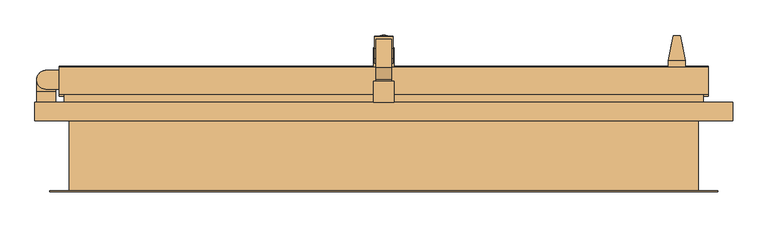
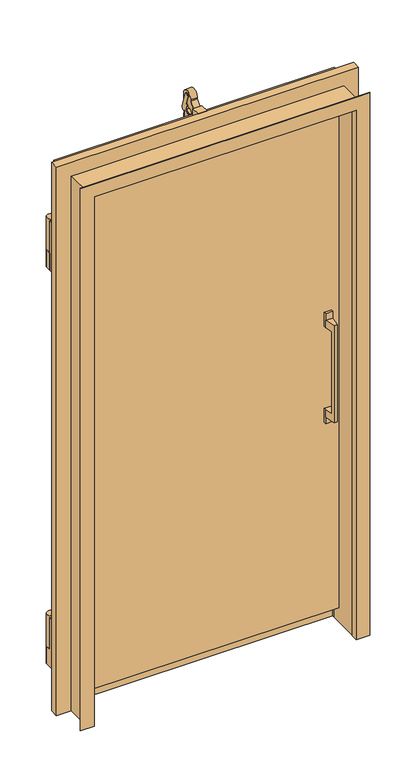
"""IFC4 building model written with IfcOpenShell, lengths in millimetres: door geometry, 冷凍_シリウス片開き扉3方_クローザー付 : W870xH1855xt100."""

from ifc_helpers import new_model, si_unit, point, frame, frame_2d, origin, origin_with_axes, origin_2d, place, context, project, spatial, polyline, circle_curve, trimmed, segment, composite_curve, outline, extrude, faceted_brep, source, transform, mapped, element, save
from ifc_brep_helpers import plane_surface, cylinder_surface, advanced_brep


def door_3bc860e5(model_context):
    return source(origin(), model_context, "Body", "SolidModel", [
        extrude(outline(composite_curve([segment(polyline([(153.7575082, 1944.1707894), (171.1391829, 1892.2691434)]), True, "CONTINUOUS"), segment(trimmed(circle_curve(frame_2d((161.6568058, 1889.0935294)), 10.0), [point((171.1391829, 1892.2691434))], [point((166.038682, 1880.104694))], False, "CARTESIAN"), True, "CONTINUOUS"), segment(polyline([(166.038682, 1880.104694), (154.99992, 1874.72352), (154.99992, 1885.0), (132.4778735, 1885.0), (147.44367, 1892.17143), (142.24514, 1907.69423), (149.32271, 1913.32711), (140.4852998, 1939.7156242)]), True, "CONTINUOUS"), segment(trimmed(circle_curve(frame_2d((147.1198418, 1941.9478606)), 7.0000019), [point((140.4852998, 1939.7156242))], [point((153.7575082, 1944.1707894))], False, "CARTESIAN"), True, "CONTINUOUS")], self_intersect=False)), frame((-13.25, 0.0, 0.0), z_axis=(1.0, 0.0, 0.0), x_axis=(0.0, 1.0, 0.0)), (0.0, 0.0, 1.0), 26.55),
        extrude(outline(composite_curve([segment(polyline([(109.00191, 1914.03364), (127.0, 1933.2594997), (127.0, 1937.9563633)]), True, "CONTINUOUS"), segment(trimmed(circle_curve(frame_2d((147.0008804, 1937.9563633)), 20.0008804), [point((127.0, 1937.9563633))], [point((167.0017607, 1937.9563633))], False, "CARTESIAN"), True, "CONTINUOUS"), segment(polyline([(167.0017607, 1937.9563633), (167.0017607, 1904.84567), (129.73254, 1904.84567), (108.3436039, 1887.49977), (107.00188, 1887.49977), (107.00188, 1914.03364), (109.00191, 1914.03364)]), True, "CONTINUOUS")], self_intersect=False)), frame((-11.0002, 0.0, 0.0), z_axis=(1.0, 0.0, 0.0), x_axis=(0.0, 1.0, 0.0)), (0.0, 0.0, 1.0), 22.0002),
        extrude(outline(polyline([(15.0, 107.00188), (15.0, 77.0), (-15.0, 77.0), (-15.0, 107.00188), (15.0, 107.00188)])), frame((0.0, 0.0, 1887.49977), z_axis=(0.0, 0.0, 1.0), x_axis=(1.0, 0.0, 0.0)), (0.0, 0.0, 1.0), 32.50023),
        extrude(outline(composite_curve([segment(trimmed(circle_curve(frame_2d((-484.00039, 108.99586)), 13.5), [point((-484.6329474, 95.5106877))], [point((-484.3537825, 122.4912338))], False, "CARTESIAN"), True, "CONTINUOUS"), segment(polyline([(-484.3537825, 122.4912338), (-465.0, 122.4912338), (-465.0, 95.5106877), (-484.6329474, 95.5106877)]), True, "CONTINUOUS")], self_intersect=False)), frame((0.0, 0.0, 1593.0), z_axis=(0.0, 0.0, 1.0), x_axis=(1.0, 0.0, 0.0)), (0.0, 0.0, 1.0), 113.0),
        advanced_brep(
        [(-470.4957639, 91.49586, 1593.0), (-470.4957639, 108.99586, 1593.0), (-497.4957639, 109.3492474, 1593.0), (-497.4957639, 91.49586, 1593.0), (-470.4957639, 91.49586, 1533.0), (-497.4957639, 91.49586, 1533.0), (-497.4957639, 109.3492474, 1533.0), (-470.50039, 108.99586, 1533.0)],
        [
            (0, 1),
            (1, 2, circle_curve(frame((-484.00039, 108.99586, 1593.0), z_axis=(0.0, 0.0, 1.0), x_axis=(1.0, 0.0, 0.0)), 13.5)),
            (2, 3),
            (3, 0),
            (4, 5),
            (5, 6),
            (6, 7, circle_curve(frame((-484.00039, 108.99586, 1533.0), z_axis=(0.0, 0.0, -1.0), x_axis=(1.0, 0.0, 0.0)), 13.5)),
            (7, 4),
            (0, 4),
            (7, 1),
            (2, 6),
            (5, 3),
        ],
        [
            plane_surface(frame((-470.4957639, 108.99586, 1593.0), z_axis=(0.0, 0.0, 1.0), x_axis=(0.0, 1.0, 0.0))),
            plane_surface(frame((-470.4957639, 108.99586, 1533.0), z_axis=(0.0, 0.0, -1.0), x_axis=(0.0, -1.0, 0.0))),
            plane_surface(frame((-470.4957639, 91.49586, 1593.0), z_axis=(1.0, 0.0, 0.0), x_axis=(0.0, 0.0, -1.0))),
            plane_surface(frame((-497.4957639, 109.3492474, 1593.0), z_axis=(-1.0, 0.0, 0.0), x_axis=(0.0, 0.0, -1.0))),
            plane_surface(frame((-497.4957639, 91.49586, 1593.0), z_axis=(0.0, -1.0, 0.0), x_axis=(0.0, 0.0, -1.0))),
            cylinder_surface(frame((-484.00039, 108.99586, 1533.0), z_axis=(0.0, 0.0, 1.0), x_axis=(1.0, 0.0, 0.0)), 13.5),
        ],
        [
            (0, [[1, 2, 3, 4]]),
            (1, [[5, 6, 7, 8]]),
            (2, [[-1, 9, -8, 10]]),
            (3, [[-3, 11, -6, 12]]),
            (4, [[-4, -12, -5, -9]]),
            (5, [[-2, -10, -7, -11]]),
        ],
    ),
        extrude(outline(polyline([(-470.4957639, 77.00058), (-497.4957639, 77.00058), (-497.4957639, 91.49586), (-470.4957639, 91.49586), (-470.4957639, 77.00058)])), frame((0.0, 0.0, 1533.0), z_axis=(0.0, 0.0, 1.0), x_axis=(1.0, 0.0, 0.0)), (0.0, 0.0, 1.0), 173.0),
        extrude(outline(composite_curve([segment(trimmed(circle_curve(frame_2d((-484.00039, 108.99586)), 13.5), [point((-484.6329474, 95.5106877))], [point((-484.3537825, 122.4912338))], False, "CARTESIAN"), True, "CONTINUOUS"), segment(polyline([(-484.3537825, 122.4912338), (-465.0, 122.4912338), (-465.0, 95.5106877), (-484.6329474, 95.5106877)]), True, "CONTINUOUS")], self_intersect=False)), frame((0.0, 0.0, 204.0), z_axis=(0.0, 0.0, 1.0), x_axis=(1.0, 0.0, 0.0)), (0.0, 0.0, 1.0), 113.0),
        advanced_brep(
        [(-470.4957639, 77.00058, 317.0), (-470.4957639, 91.49586, 317.0), (-497.4957639, 91.49586, 317.0), (-497.4957639, 77.00058, 317.0), (-470.4957639, 77.00058, 144.0), (-497.4957639, 77.00058, 144.0), (-497.4957639, 109.3492474, 144.0), (-470.50039, 108.99586, 144.0), (-470.4957639, 108.99586, 204.0), (-470.4957639, 91.49586, 204.0), (-497.4957639, 91.49586, 204.0), (-497.4957639, 109.3492474, 204.0)],
        [
            (0, 1),
            (1, 2),
            (2, 3),
            (3, 0),
            (4, 5),
            (5, 6),
            (6, 7, circle_curve(frame((-484.00039, 108.99586, 144.0), z_axis=(0.0, 0.0, -1.0), x_axis=(1.0, 0.0, 0.0)), 13.5)),
            (7, 4),
            (0, 4),
            (7, 8),
            (8, 9),
            (9, 1),
            (9, 10),
            (10, 2),
            (10, 11),
            (11, 6),
            (5, 3),
            (8, 11, circle_curve(frame((-484.00039, 108.99586, 204.0), z_axis=(0.0, 0.0, 1.0), x_axis=(1.0, 0.0, 0.0)), 13.5)),
        ],
        [
            plane_surface(frame((-470.4957639, 91.49586, 317.0), z_axis=(0.0, 0.0, 1.0), x_axis=(0.0, 1.0, 0.0))),
            plane_surface(frame((-470.4957639, 91.49586, 144.0), z_axis=(0.0, 0.0, -1.0), x_axis=(0.0, -1.0, 0.0))),
            plane_surface(frame((-470.4957639, 77.00058, 317.0), z_axis=(1.0, 0.0, 0.0), x_axis=(0.0, 0.0, -1.0))),
            plane_surface(frame((-470.4957639, 91.49586, 317.0), z_axis=(0.0, 1.0, 0.0), x_axis=(0.0, 0.0, -1.0))),
            plane_surface(frame((-497.4957639, 91.49586, 317.0), z_axis=(-1.0, 0.0, 0.0), x_axis=(0.0, 0.0, -1.0))),
            plane_surface(frame((-497.4957639, 77.00058, 317.0), z_axis=(0.0, -1.0, 0.0), x_axis=(0.0, 0.0, -1.0))),
            plane_surface(frame((-470.4957639, 108.99586, 204.0), z_axis=(0.0, 0.0, 1.0), x_axis=(0.0, 1.0, 0.0))),
            cylinder_surface(frame((-484.00039, 108.99586, 144.0), z_axis=(0.0, 0.0, 1.0), x_axis=(1.0, 0.0, 0.0)), 13.5),
        ],
        [
            (0, [[1, 2, 3, 4]]),
            (1, [[5, 6, 7, 8]]),
            (2, [[-1, 9, -8, 10, 11, 12]]),
            (3, [[-2, -12, 13, 14]]),
            (4, [[-3, -14, 15, 16, -6, 17]]),
            (5, [[-4, -17, -5, -9]]),
            (6, [[-11, 18, -15, -13]]),
            (7, [[-18, -10, -7, -16]]),
        ],
    ),
        faceted_brep([(-435.0, -50.0, 0.0), (-451.00103, -50.0, 0.0), (-451.00103, 50.0, 0.0), (-500.0, 50.0, 0.0), (-500.0, 77.0, 0.0), (-435.0, 77.0, 0.0), (-435.0, -50.0, 1855.0), (435.0, -50.0, 1855.0), (435.0, -50.0, 0.0), (451.00103, -50.0, 0.0), (451.00103, -50.0, 1871.00103), (-451.00103, -50.0, 1871.00103), (-451.00103, 50.0, 1871.00103), (451.00103, 50.0, 1871.00103), (451.00103, 50.0, 0.0), (500.0, 50.0, 0.0), (500.0, 50.0, 1920.0), (-500.0, 50.0, 1920.0), (-500.0, 77.0, 1920.0), (500.0, 77.0, 1920.0), (500.0, 77.0, 0.0), (435.0, 77.0, 0.0), (435.0, 77.0, 1855.0), (-435.0, 77.0, 1855.0)], [[[0, 1, 2, 3, 4, 5]], [[1, 0, 6, 7, 8, 9, 10, 11]], [[2, 1, 11, 12]], [[3, 2, 12, 13, 14, 15, 16, 17]], [[4, 3, 17, 18]], [[5, 4, 18, 19, 20, 21, 22, 23]], [[0, 5, 23, 6]], [[7, 22, 21, 8]], [[8, 21, 20, 15, 14, 9]], [[13, 10, 9, 14]], [[19, 16, 15, 20]], [[12, 11, 10, 13]], [[18, 17, 16, 19]], [[6, 23, 22, 7]]]),
        faceted_brep([(-433.8, -29.2, 0.0), (-433.8, -51.2, 0.0), (-479.0, -51.2, 0.0), (-479.0, -50.0, 0.0), (-435.0, -50.0, 0.0), (-435.0, -29.2, 0.0), (-433.8, -29.2, 1853.8), (-433.8, -51.2, 1853.8), (433.8, -51.2, 1853.8), (433.8, -51.2, 0.0), (479.0, -51.2, 0.0), (479.0, -51.2, 1899.0), (-479.0, -51.2, 1899.0), (-479.0, -50.0, 1899.0), (479.0, -50.0, 1899.0), (479.0, -50.0, 0.0), (435.0, -50.0, 0.0), (435.0, -50.0, 1855.0), (-435.0, -50.0, 1855.0), (-435.0, -29.2, 1855.0), (435.0, -29.2, 1855.0), (435.0, -29.2, 0.0), (433.8, -29.2, 0.0), (433.8, -29.2, 1853.8)], [[[0, 1, 2, 3, 4, 5]], [[1, 0, 6, 7]], [[2, 1, 7, 8, 9, 10, 11, 12]], [[3, 2, 12, 13]], [[4, 3, 13, 14, 15, 16, 17, 18]], [[5, 4, 18, 19]], [[0, 5, 19, 20, 21, 22, 23, 6]], [[8, 23, 22, 9]], [[22, 21, 16, 15, 10, 9]], [[14, 11, 10, 15]], [[20, 17, 16, 21]], [[7, 6, 23, 8]], [[13, 12, 11, 14]], [[19, 18, 17, 20]]]),
        faceted_brep([(-465.0, 88.0, 1885.0), (-465.0, 88.0, 25.0), (465.0, 88.0, 25.0), (465.0, 88.0, 1885.0), (-421.0, 88.0, 69.0), (-421.0, 88.0, 1841.0), (421.0, 88.0, 1841.0), (421.0, 88.0, 69.0), (-465.0, 127.0, 1885.0), (-465.0, 127.0, 25.0), (465.0, 127.0, 25.0), (465.0, 127.0, 1885.0), (-421.0, 27.0, 69.0), (-421.0, 27.0, 1841.0), (421.0, 27.0, 1841.0), (421.0, 27.0, 69.0)], [[[0, 1, 2, 3], [4, 5, 6, 7]], [[1, 0, 8, 9]], [[2, 1, 9, 10]], [[3, 2, 10, 11]], [[12, 13, 5, 4]], [[14, 15, 7, 6]], [[15, 12, 4, 7]], [[8, 11, 10, 9]], [[13, 12, 15, 14]], [[0, 3, 11, 8]], [[13, 14, 6, 5]]]),
        extrude(outline(polyline([(-465.0, 129.0), (465.0, 129.0), (465.0, 127.0), (-465.0, 127.0), (-465.0, 129.0)])), origin_with_axes(), (0.0, 0.0, 1.0), 69.0),
        extrude(outline(polyline([(465.0, 86.0), (-465.0, 86.0), (-465.0, 88.0), (465.0, 88.0), (465.0, 86.0)])), origin_with_axes(), (0.0, 0.0, 1.0), 69.0),
        extrude(outline(composite_curve([segment(trimmed(circle_curve(origin_2d(), 3.3), [point((0.0, 3.3))], [point((0.0, -3.3))], False, "CARTESIAN"), True, "CONTINUOUS"), segment(trimmed(circle_curve(origin_2d(), 3.3), [point((0.0, -3.3))], [point((0.0, 3.3))], False, "CARTESIAN"), True, "CONTINUOUS")], self_intersect=False)), frame((0.0, 160.3677798, 1867.7778233), z_axis=(0.0, 0.1542464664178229, 0.9880324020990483), x_axis=(1.0, 0.0, 0.0)), (0.0, 0.0, 1.0), 17.4307812),
        extrude(outline(composite_curve([segment(trimmed(circle_curve(origin_2d(), 13.0), [point((0.0, 13.0000001))], [point((0.0, -13.0))], False, "CARTESIAN"), True, "CONTINUOUS"), segment(trimmed(circle_curve(origin_2d(), 13.0), [point((0.0, -13.0))], [point((0.0, 13.0000001))], False, "CARTESIAN"), True, "CONTINUOUS")], self_intersect=False)), frame((0.0, 147.1948076, 1783.3977812), z_axis=(0.0, 0.15424646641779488, 0.9880324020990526), x_axis=(1.0, 0.0, 0.0)), (0.0, 0.0, 1.0), 85.4021002),
        extrude(outline(polyline([(15.0, 154.99992), (15.0, 127.0), (-15.0, 127.0), (-15.0, 154.99992), (15.0, 154.99992)])), frame((0.0, 0.0, 1778.99998), z_axis=(0.0, 0.0, 1.0), x_axis=(1.0, 0.0, 0.0)), (0.0, 0.0, 1.0), 106.00002),
        faceted_brep([(391.9448833, -8.0, 783.6), (391.9448833, -8.0, 1071.38815), (397.00063, 18.0021943, 1071.38815), (397.00063, 18.0021943, 1097.0093), (390.0005294, -18.0, 1097.0093), (390.0005294, -18.0, 758.0), (397.00063, 18.0021943, 758.0), (397.00063, 18.0021943, 783.6), (379.9994306, -18.0, 1097.0093), (379.9994306, -18.0, 758.0), (378.0550767, -8.0, 1071.38815), (378.0550767, -8.0, 783.6), (372.99933, 18.0021943, 783.6), (372.99933, 18.0021943, 758.0), (372.99933, 18.0021943, 1097.0093), (372.99933, 18.0021943, 1071.38815), (372.99933, 27.0, 1071.38815), (397.00063, 27.0, 1071.38815), (372.99933, 18.0021943, 1120.01065), (372.99933, 27.0, 1120.01065), (397.00063, 27.0, 1120.01065), (397.00063, 18.0021943, 1120.01065), (397.00063, 27.0, 783.6), (372.99933, 27.0, 783.6), (372.99933, 27.0, 735.0), (372.99933, 18.0021943, 735.0), (397.00063, 27.0, 735.0), (397.00063, 18.0021943, 735.0)], [[[0, 1, 2, 3, 4, 5, 6, 7]], [[4, 8, 9, 5]], [[10, 11, 12, 13, 9, 8, 14, 15]], [[1, 0, 11, 10]], [[14, 8, 4, 3]], [[15, 16, 17, 2, 1, 10]], [[16, 15, 14, 18, 19]], [[17, 16, 19, 20]], [[2, 17, 20, 21, 3]], [[19, 18, 21, 20]], [[21, 18, 14, 3]], [[6, 5, 9, 13]], [[7, 22, 23, 12, 11, 0]], [[12, 23, 24, 25, 13]], [[24, 23, 22, 26]], [[26, 22, 7, 6, 27]], [[24, 26, 27, 25]], [[25, 27, 6, 13]]]),
        faceted_brep([(407.99933, 127.0, 735.0), (407.99933, 135.9978057, 735.0), (432.00063, 135.9978057, 735.0), (432.00063, 127.0, 735.0), (407.99933, 127.0, 783.6), (407.99933, 135.9978057, 783.6), (407.99933, 135.9978057, 758.0), (432.00063, 127.0, 783.6), (432.00063, 135.9978057, 758.0), (432.00063, 135.9978057, 783.6), (414.9994306, 172.0, 758.0), (425.0005294, 172.0, 758.0), (426.9448833, 162.0, 783.6), (413.0550767, 162.0, 783.6), (425.0005294, 172.0, 1097.0093), (432.00063, 135.9978057, 1097.0093), (432.00063, 135.9978057, 1071.38815), (426.9448833, 162.0, 1071.38815), (414.9994306, 172.0, 1097.0093), (413.0550767, 162.0, 1071.38815), (407.99933, 135.9978057, 1071.38815), (407.99933, 135.9978057, 1097.0093), (432.00063, 127.0, 1071.38815), (407.99933, 127.0, 1071.38815), (407.99933, 127.0, 1120.01065), (407.99933, 135.9978057, 1120.01065), (432.00063, 127.0, 1120.01065), (432.00063, 135.9978057, 1120.01065)], [[[0, 1, 2, 3]], [[1, 0, 4, 5, 6]], [[0, 3, 7, 4]], [[3, 2, 8, 9, 7]], [[2, 1, 6, 8]], [[6, 10, 11, 8]], [[5, 4, 7, 9, 12, 13]], [[8, 11, 14, 15, 16, 17, 12, 9]], [[14, 11, 10, 18]], [[18, 10, 6, 5, 13, 19, 20, 21]], [[15, 14, 18, 21]], [[16, 22, 23, 20, 19, 17]], [[20, 23, 24, 25, 21]], [[23, 22, 26, 24]], [[22, 16, 15, 27, 26]], [[24, 26, 27, 25]], [[25, 27, 15, 21]], [[12, 17, 19, 13]]]),
        extrude(outline(polyline([(-458.0, 77.0), (-458.0, 88.0), (-435.0, 88.0), (-435.0, 77.0), (-458.0, 77.0)])), origin_with_axes(), (0.0, 0.0, 1.0), 1855.0),
        extrude(outline(polyline([(458.0, 77.0), (435.0, 77.0), (435.0, 88.0), (458.0, 88.0), (458.0, 77.0)])), origin_with_axes(), (0.0, 0.0, 1.0), 1855.0),
        extrude(outline(polyline([(-458.0, 77.0), (-458.0, 88.0), (458.0, 88.0), (458.0, 77.0), (-458.0, 77.0)])), frame((0.0, 0.0, 1855.0), z_axis=(0.0, 0.0, 1.0), x_axis=(1.0, 0.0, 0.0)), (0.0, 0.0, 1.0), 23.0),
    ])


if __name__ == "__main__":
    model = new_model("IFC4")
    model_context = context("Model", 3, world=origin())
    ifc_project = project(units=[si_unit("LENGTHUNIT", "METRE", prefix="MILLI")], contexts=[model_context])
    site = spatial("IfcSite", under=ifc_project)
    building = spatial("IfcBuilding", under=site)
    placement = place(None, origin())
    door_shape = door_3bc860e5(model_context)
    element("IfcDoor", 1, ObjectType="冷凍_シリウス片開き扉3方_クローザー付 : W870xH1855xt100", at=placement, inside=building, context=model_context, shape_type="MappedRepresentation", body=[
        mapped(door_shape, transform((0.0, 0.0, 0.0), x_axis=(1.0, 0.0, 0.0), y_axis=(0.0, 1.0, 0.0), z_axis=(0.0, 0.0, 1.0))),
    ])
    save(model, "model.ifc")
